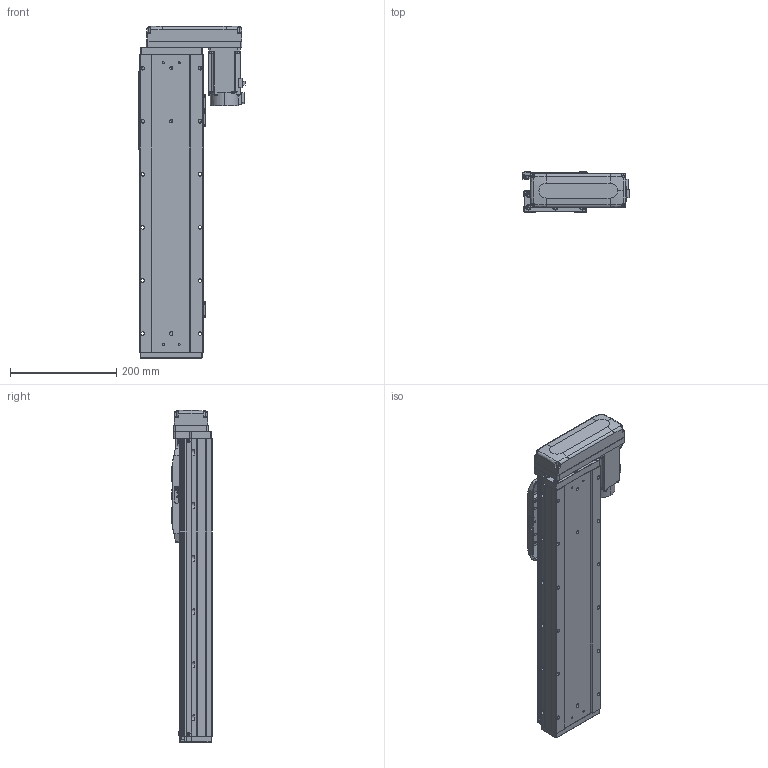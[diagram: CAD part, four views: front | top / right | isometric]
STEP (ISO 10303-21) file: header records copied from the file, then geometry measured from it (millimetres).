
FILE_DESCRIPTION (( 'STEP AP203' ), '1' );
FILE_NAME ('GTH12-350-BL-M40-C4.step', '2023-07-04T10:40:18', ( '微软用户' ), ( '微软中国' ), 'SwSTEP 2.0', 'SolidWorks 2020', '' );
FILE_SCHEMA (( 'CONFIG_CONTROL_DESIGN' ));
Length unit declared in the file: millimetre
Products named in the file (18): GBT 70.1-M5×16; BTH-M3X5X6; GBT 70.3-M3℅8; hg-kn43j_-s100_; GTH80-022; CTHA86-033_M40B; GTH120-006; GTH80-028; GTH120-027-1_GTH120-027-2; GTH120-004; GTH50-023; GTH120-001_350; GTH12-350-BL-M40-C4; GTH120-013; GTH50-024; GTH120-003; GBT 70.1-M3℅6; GBT96.1-2002 3×0.8
Assembly tree (59 placements, depth 2):
  GTH12-350-BL-M40-C4
    GTH120-001_350
    GTH120-003
    GTH120-006
    GTH120-004
    GTH120-013
    GBT 70.1-M3℅6  x14
    GBT 70.1-M5×16  x10
    GBT 70.3-M3℅8  x4
    GTH80-022
    GTH80-028  x2
    GTH50-023  x3
    GTH50-024  x3
    GBT96.1-2002 3×0.8  x6
    BTH-M3X5X6  x8
    hg-kn43j_-s100_
    CTHA86-033_M40B
    GTH120-027-1_GTH120-027-2
Bounding box: 199.8 x 76 x 625.5 mm (x, y, z)
Volume: 4932266.4 mm3; surface area: 510164.7 mm2
Topology: 61 solids, 61 shells, 2382 faces, 5533 edges, 3393 vertices
Faces by surface type: plane 1238, cylinder 676, cone 280, torus 174, sphere 8, bspline 6
Entity records: 43663 total; most frequent: CARTESIAN_POINT 7394, DIRECTION 7197, ORIENTED_EDGE 6676, EDGE_CURVE 3338, AXIS2_PLACEMENT_3D 2517, LINE 2163, VECTOR 2163, VERTEX_POINT 2114
